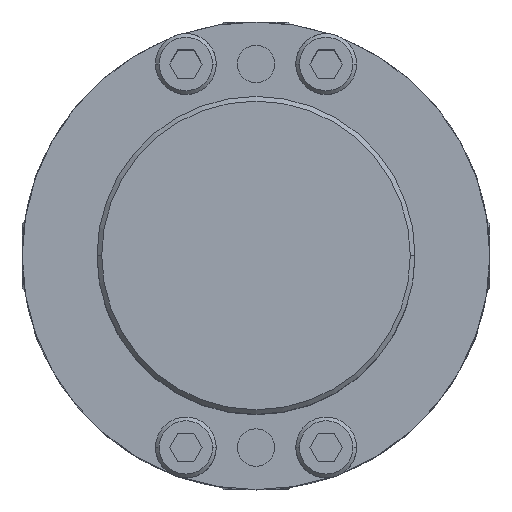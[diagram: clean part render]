
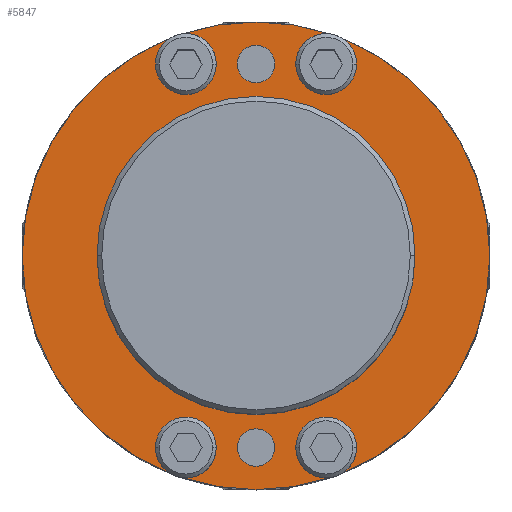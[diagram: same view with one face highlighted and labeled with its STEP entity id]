
A CAD part, top view. The second image highlights one B-rep face of the part: STEP entity #5847.
In plain terms, the highlighted planar face has unit normal (0, 0, 1).
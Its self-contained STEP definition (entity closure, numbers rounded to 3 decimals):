
#885=CARTESIAN_POINT('',(-50.0,0.,24.));
#886=VERTEX_POINT('',#885);
#1002=CARTESIAN_POINT('',(50.0,0.,24.));
#1003=VERTEX_POINT('',#1002);
#1010=CARTESIAN_POINT('',(18.601,-46.411,24.));
#1011=VERTEX_POINT('',#1010);
#1012=CARTESIAN_POINT('',(0.,0.0,24.));
#1013=DIRECTION('',(0.0,0.0,-1.0));
#1014=DIRECTION('',(-1.0,0.0,0.0));
#1015=AXIS2_PLACEMENT_3D('',#1012,#1013,#1014);
#1016=CIRCLE('',#1015,50.0);
#1017=EDGE_CURVE('',#1003,#1011,#1016,.T.);
#1019=CARTESIAN_POINT('',(15.741,-47.458,24.));
#1020=VERTEX_POINT('',#1019);
#1028=CARTESIAN_POINT('',(-15.741,-47.458,24.0));
#1029=VERTEX_POINT('',#1028);
#1030=CARTESIAN_POINT('',(0.,0.0,24.));
#1031=DIRECTION('',(0.0,0.0,-1.0));
#1032=DIRECTION('',(-1.0,0.0,0.0));
#1033=AXIS2_PLACEMENT_3D('',#1030,#1031,#1032);
#1034=CIRCLE('',#1033,50.0);
#1035=EDGE_CURVE('',#1020,#1029,#1034,.T.);
#1037=CARTESIAN_POINT('',(-18.601,-46.411,24.0));
#1038=VERTEX_POINT('',#1037);
#1046=CARTESIAN_POINT('',(0.,0.0,24.));
#1047=DIRECTION('',(0.0,0.0,-1.0));
#1048=DIRECTION('',(-1.0,0.0,0.0));
#1049=AXIS2_PLACEMENT_3D('',#1046,#1047,#1048);
#1050=CIRCLE('',#1049,50.0);
#1051=EDGE_CURVE('',#1038,#886,#1050,.T.);
#1593=CARTESIAN_POINT('',(-34.0,0.,24.));
#1594=VERTEX_POINT('',#1593);
#1603=CARTESIAN_POINT('',(34.0,0.,24.));
#1604=VERTEX_POINT('',#1603);
#1605=CARTESIAN_POINT('',(0.,0.0,24.));
#1606=DIRECTION('',(0.0,0.0,-1.0));
#1607=DIRECTION('',(-1.0,0.0,0.0));
#1608=AXIS2_PLACEMENT_3D('',#1605,#1606,#1607);
#1609=CIRCLE('',#1608,34.0);
#1610=EDGE_CURVE('',#1604,#1594,#1609,.T.);
#1669=CARTESIAN_POINT('',(8.5,-41.0,24.));
#1670=VERTEX_POINT('',#1669);
#1686=CARTESIAN_POINT('',(21.5,-41.0,24.));
#1687=VERTEX_POINT('',#1686);
#1694=CARTESIAN_POINT('',(15.0,-41.0,24.));
#1695=DIRECTION('',(0.0,0.0,-1.0));
#1696=DIRECTION('',(-1.0,0.0,0.0));
#1697=AXIS2_PLACEMENT_3D('',#1694,#1695,#1696);
#1698=CIRCLE('',#1697,6.5);
#1699=EDGE_CURVE('',#1670,#1687,#1698,.T.);
#1743=CARTESIAN_POINT('',(-21.5,-41.0,24.0));
#1744=VERTEX_POINT('',#1743);
#1760=CARTESIAN_POINT('',(-8.5,-41.0,24.0));
#1761=VERTEX_POINT('',#1760);
#1768=CARTESIAN_POINT('',(-15.,-41.0,24.0));
#1769=DIRECTION('',(0.0,0.0,-1.0));
#1770=DIRECTION('',(-1.0,0.0,0.0));
#1771=AXIS2_PLACEMENT_3D('',#1768,#1769,#1770);
#1772=CIRCLE('',#1771,6.5);
#1773=EDGE_CURVE('',#1744,#1761,#1772,.T.);
#1817=CARTESIAN_POINT('',(8.5,41.0,24.));
#1818=VERTEX_POINT('',#1817);
#1834=CARTESIAN_POINT('',(21.5,41.0,24.));
#1835=VERTEX_POINT('',#1834);
#1842=CARTESIAN_POINT('',(18.601,46.411,24.));
#1843=VERTEX_POINT('',#1842);
#1844=CARTESIAN_POINT('',(15.,41.0,24.));
#1845=DIRECTION('',(0.0,0.0,-1.0));
#1846=DIRECTION('',(-1.0,0.0,0.0));
#1847=AXIS2_PLACEMENT_3D('',#1844,#1845,#1846);
#1848=CIRCLE('',#1847,6.5);
#1849=EDGE_CURVE('',#1843,#1835,#1848,.T.);
#1851=CARTESIAN_POINT('',(15.741,47.458,24.));
#1852=VERTEX_POINT('',#1851);
#1860=CARTESIAN_POINT('',(15.,41.0,24.));
#1861=DIRECTION('',(0.0,0.0,-1.0));
#1862=DIRECTION('',(-1.0,0.0,0.0));
#1863=AXIS2_PLACEMENT_3D('',#1860,#1861,#1862);
#1864=CIRCLE('',#1863,6.5);
#1865=EDGE_CURVE('',#1818,#1852,#1864,.T.);
#1909=CARTESIAN_POINT('',(-21.5,41.0,24.0));
#1910=VERTEX_POINT('',#1909);
#1926=CARTESIAN_POINT('',(-8.5,41.0,24.0));
#1927=VERTEX_POINT('',#1926);
#1934=CARTESIAN_POINT('',(-15.741,47.458,24.0));
#1935=VERTEX_POINT('',#1934);
#1936=CARTESIAN_POINT('',(-15.,41.0,24.0));
#1937=DIRECTION('',(0.0,0.0,-1.0));
#1938=DIRECTION('',(-1.0,0.0,0.0));
#1939=AXIS2_PLACEMENT_3D('',#1936,#1937,#1938);
#1940=CIRCLE('',#1939,6.5);
#1941=EDGE_CURVE('',#1935,#1927,#1940,.T.);
#1943=CARTESIAN_POINT('',(-18.601,46.411,24.0));
#1944=VERTEX_POINT('',#1943);
#1952=CARTESIAN_POINT('',(-15.,41.0,24.0));
#1953=DIRECTION('',(0.0,0.0,-1.0));
#1954=DIRECTION('',(-1.0,0.0,0.0));
#1955=AXIS2_PLACEMENT_3D('',#1952,#1953,#1954);
#1956=CIRCLE('',#1955,6.5);
#1957=EDGE_CURVE('',#1910,#1944,#1956,.T.);
#1999=CARTESIAN_POINT('',(-4.,-41.0,24.));
#2000=VERTEX_POINT('',#1999);
#2009=CARTESIAN_POINT('',(4.,-41.0,24.));
#2010=VERTEX_POINT('',#2009);
#2011=CARTESIAN_POINT('',(0.,-41.0,24.));
#2012=DIRECTION('',(0.0,0.0,-1.0));
#2013=DIRECTION('',(-1.0,0.0,0.0));
#2014=AXIS2_PLACEMENT_3D('',#2011,#2012,#2013);
#2015=CIRCLE('',#2014,4.0);
#2016=EDGE_CURVE('',#2010,#2000,#2015,.T.);
#2041=CARTESIAN_POINT('',(-4.,41.0,24.));
#2042=VERTEX_POINT('',#2041);
#2051=CARTESIAN_POINT('',(4.,41.0,24.));
#2052=VERTEX_POINT('',#2051);
#2053=CARTESIAN_POINT('',(0.,41.0,24.));
#2054=DIRECTION('',(0.0,0.0,-1.0));
#2055=DIRECTION('',(-1.0,0.0,0.0));
#2056=AXIS2_PLACEMENT_3D('',#2053,#2054,#2055);
#2057=CIRCLE('',#2056,4.0);
#2058=EDGE_CURVE('',#2052,#2042,#2057,.T.);
#4314=CARTESIAN_POINT('',(0.,41.0,24.));
#4315=DIRECTION('',(0.0,0.0,-1.0));
#4316=DIRECTION('',(-1.0,0.0,0.0));
#4317=AXIS2_PLACEMENT_3D('',#4314,#4315,#4316);
#4318=CIRCLE('',#4317,4.0);
#4319=EDGE_CURVE('',#2042,#2052,#4318,.T.);
#4338=CARTESIAN_POINT('',(0.,-41.0,24.));
#4339=DIRECTION('',(0.0,0.0,-1.0));
#4340=DIRECTION('',(-1.0,0.0,0.0));
#4341=AXIS2_PLACEMENT_3D('',#4338,#4339,#4340);
#4342=CIRCLE('',#4341,4.0);
#4343=EDGE_CURVE('',#2000,#2010,#4342,.T.);
#4378=CARTESIAN_POINT('',(-15.,41.0,24.0));
#4379=DIRECTION('',(0.0,0.0,-1.0));
#4380=DIRECTION('',(-1.0,0.0,0.0));
#4381=AXIS2_PLACEMENT_3D('',#4378,#4379,#4380);
#4382=CIRCLE('',#4381,6.5);
#4383=EDGE_CURVE('',#1927,#1910,#4382,.T.);
#4480=CARTESIAN_POINT('',(15.,41.0,24.));
#4481=DIRECTION('',(0.0,0.0,-1.0));
#4482=DIRECTION('',(-1.0,0.0,0.0));
#4483=AXIS2_PLACEMENT_3D('',#4480,#4481,#4482);
#4484=CIRCLE('',#4483,6.5);
#4485=EDGE_CURVE('',#1835,#1818,#4484,.T.);
#4582=CARTESIAN_POINT('',(-15.,-41.0,24.0));
#4583=DIRECTION('',(0.0,0.0,-1.0));
#4584=DIRECTION('',(-1.0,0.0,0.0));
#4585=AXIS2_PLACEMENT_3D('',#4582,#4583,#4584);
#4586=CIRCLE('',#4585,6.5);
#4587=EDGE_CURVE('',#1038,#1744,#4586,.T.);
#4596=CARTESIAN_POINT('',(-15.,-41.0,24.0));
#4597=DIRECTION('',(0.0,0.0,-1.0));
#4598=DIRECTION('',(-1.0,0.0,0.0));
#4599=AXIS2_PLACEMENT_3D('',#4596,#4597,#4598);
#4600=CIRCLE('',#4599,6.5);
#4601=EDGE_CURVE('',#1761,#1029,#4600,.T.);
#4698=CARTESIAN_POINT('',(15.0,-41.0,24.));
#4699=DIRECTION('',(0.0,0.0,-1.0));
#4700=DIRECTION('',(-1.0,0.0,0.0));
#4701=AXIS2_PLACEMENT_3D('',#4698,#4699,#4700);
#4702=CIRCLE('',#4701,6.5);
#4703=EDGE_CURVE('',#1020,#1670,#4702,.T.);
#4712=CARTESIAN_POINT('',(15.0,-41.0,24.));
#4713=DIRECTION('',(0.0,0.0,-1.0));
#4714=DIRECTION('',(-1.0,0.0,0.0));
#4715=AXIS2_PLACEMENT_3D('',#4712,#4713,#4714);
#4716=CIRCLE('',#4715,6.5);
#4717=EDGE_CURVE('',#1687,#1011,#4716,.T.);
#5500=CARTESIAN_POINT('',(0.,0.0,24.));
#5501=DIRECTION('',(0.0,0.0,-1.0));
#5502=DIRECTION('',(-1.0,0.0,0.0));
#5503=AXIS2_PLACEMENT_3D('',#5500,#5501,#5502);
#5504=CIRCLE('',#5503,34.0);
#5505=EDGE_CURVE('',#1594,#1604,#5504,.T.);
#5792=CARTESIAN_POINT('',(-4.545,0.,24.));
#5793=DIRECTION('',(0.0,0.0,1.0));
#5794=DIRECTION('',(-1.0,0.0,0.0));
#5795=AXIS2_PLACEMENT_3D('',#5792,#5793,#5794);
#5796=PLANE('',#5795);
#5797=ORIENTED_EDGE('',*,*,#4703,.T.);
#5798=ORIENTED_EDGE('',*,*,#1699,.T.);
#5799=ORIENTED_EDGE('',*,*,#4717,.T.);
#5800=ORIENTED_EDGE('',*,*,#1017,.F.);
#5801=CARTESIAN_POINT('',(0.,0.0,24.));
#5802=DIRECTION('',(0.0,0.0,-1.0));
#5803=DIRECTION('',(-1.0,0.0,0.0));
#5804=AXIS2_PLACEMENT_3D('',#5801,#5802,#5803);
#5805=CIRCLE('',#5804,50.0);
#5806=EDGE_CURVE('',#1843,#1003,#5805,.T.);
#5807=ORIENTED_EDGE('',*,*,#5806,.F.);
#5808=ORIENTED_EDGE('',*,*,#1849,.T.);
#5809=ORIENTED_EDGE('',*,*,#4485,.T.);
#5810=ORIENTED_EDGE('',*,*,#1865,.T.);
#5811=CARTESIAN_POINT('',(0.,0.0,24.));
#5812=DIRECTION('',(0.0,0.0,-1.0));
#5813=DIRECTION('',(-1.0,0.0,0.0));
#5814=AXIS2_PLACEMENT_3D('',#5811,#5812,#5813);
#5815=CIRCLE('',#5814,50.0);
#5816=EDGE_CURVE('',#1935,#1852,#5815,.T.);
#5817=ORIENTED_EDGE('',*,*,#5816,.F.);
#5818=ORIENTED_EDGE('',*,*,#1941,.T.);
#5819=ORIENTED_EDGE('',*,*,#4383,.T.);
#5820=ORIENTED_EDGE('',*,*,#1957,.T.);
#5821=CARTESIAN_POINT('',(0.,0.0,24.));
#5822=DIRECTION('',(0.0,0.0,-1.0));
#5823=DIRECTION('',(-1.0,0.0,0.0));
#5824=AXIS2_PLACEMENT_3D('',#5821,#5822,#5823);
#5825=CIRCLE('',#5824,50.0);
#5826=EDGE_CURVE('',#886,#1944,#5825,.T.);
#5827=ORIENTED_EDGE('',*,*,#5826,.F.);
#5828=ORIENTED_EDGE('',*,*,#1051,.F.);
#5829=ORIENTED_EDGE('',*,*,#4587,.T.);
#5830=ORIENTED_EDGE('',*,*,#1773,.T.);
#5831=ORIENTED_EDGE('',*,*,#4601,.T.);
#5832=ORIENTED_EDGE('',*,*,#1035,.F.);
#5833=EDGE_LOOP('',(#5797,#5798,#5799,#5800,#5807,#5808,#5809,#5810,#5817,#5818,#5819,#5820,#5827,#5828,#5829,#5830,#5831,#5832));
#5834=FACE_OUTER_BOUND('',#5833,.T.);
#5835=ORIENTED_EDGE('',*,*,#4319,.T.);
#5836=ORIENTED_EDGE('',*,*,#2058,.T.);
#5837=EDGE_LOOP('',(#5835,#5836));
#5838=FACE_BOUND('',#5837,.T.);
#5839=ORIENTED_EDGE('',*,*,#4343,.T.);
#5840=ORIENTED_EDGE('',*,*,#2016,.T.);
#5841=EDGE_LOOP('',(#5839,#5840));
#5842=FACE_BOUND('',#5841,.T.);
#5843=ORIENTED_EDGE('',*,*,#1610,.T.);
#5844=ORIENTED_EDGE('',*,*,#5505,.T.);
#5845=EDGE_LOOP('',(#5843,#5844));
#5846=FACE_BOUND('',#5845,.T.);
#5847=ADVANCED_FACE('',(#5834,#5838,#5842,#5846),#5796,.T.);
